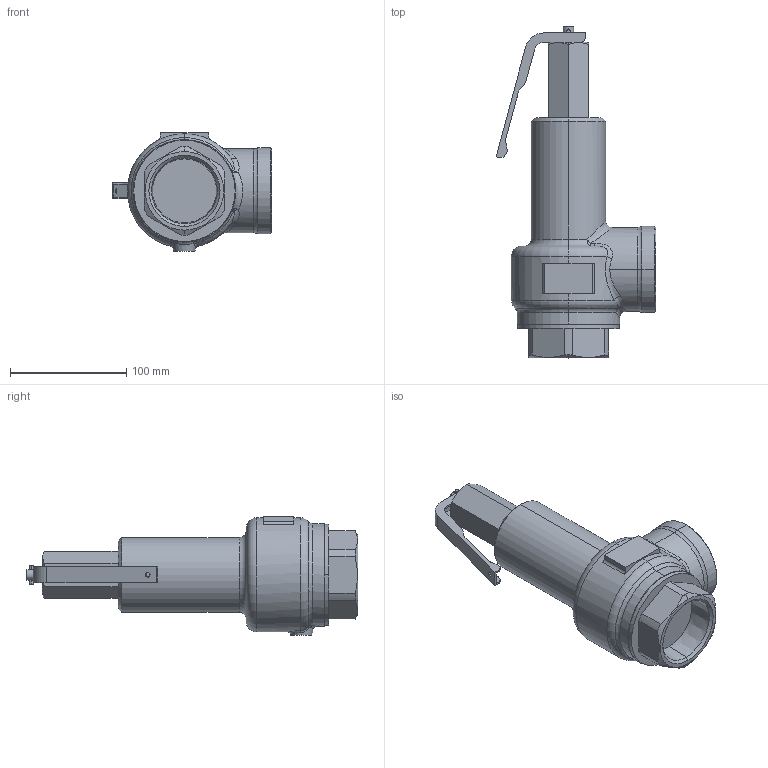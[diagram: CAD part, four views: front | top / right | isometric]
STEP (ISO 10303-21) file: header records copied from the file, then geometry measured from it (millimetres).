
FILE_DESCRIPTION (( 'STEP AP203' ), '1' );
FILE_NAME ('AL-150TML 50A.STEP', '2026-01-08T02:27:58', ( '' ), ( '' ), 'SwSTEP 2.0', 'SolidWorks 2024', '' );
FILE_SCHEMA (( 'CONFIG_CONTROL_DESIGN' ));
Length unit declared in the file: millimetre
Products named in the file (3): AL-15 Lever 40-50A; AL-150TML 50A; AL-150TML 50A(Non-Lever)
Assembly tree (2 placements, depth 2):
  AL-150TML 50A
    AL-150TML 50A(Non-Lever)
    AL-15 Lever 40-50A
Bounding box: 137.03 x 285 x 102 mm (x, y, z)
Volume: 1069466.3 mm3; surface area: 92535.7 mm2
Topology: 2 solids, 2 shells, 161 faces, 405 edges, 251 vertices
Faces by surface type: plane 53, cylinder 52, cone 22, bspline 18, torus 14, sphere 2
Entity records: 6999 total; most frequent: CARTESIAN_POINT 2910, ORIENTED_EDGE 802, DIRECTION 802, EDGE_CURVE 401, AXIS2_PLACEMENT_3D 315, VERTEX_POINT 251, LINE 172, EDGE_LOOP 172
